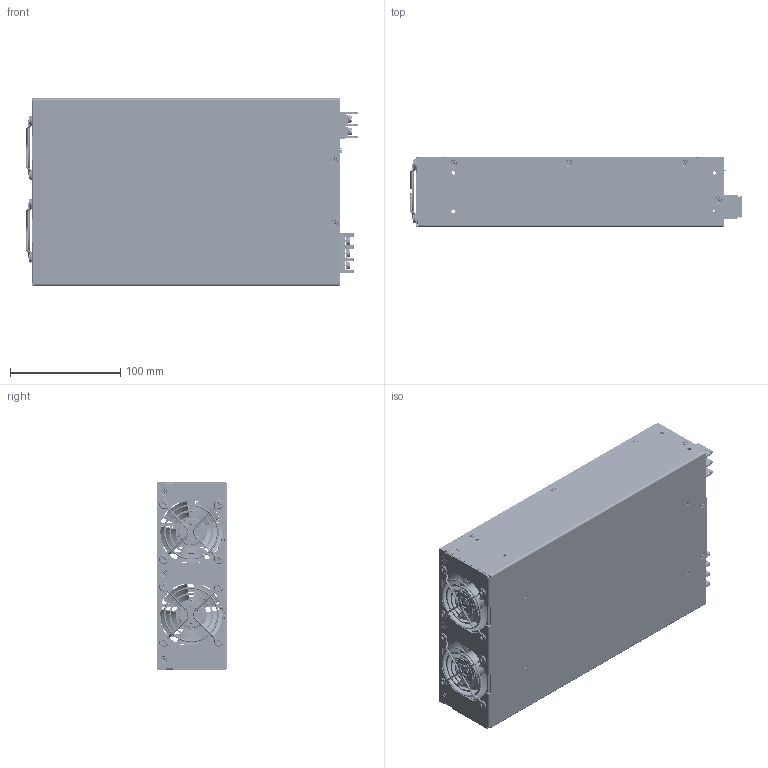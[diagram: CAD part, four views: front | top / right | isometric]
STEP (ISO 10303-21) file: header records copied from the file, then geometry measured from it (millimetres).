
FILE_DESCRIPTION (( 'STEP AP214' ), '1' );
FILE_NAME ('HDL3000-HV.STEP', '2020-03-26T18:29:04', ( '' ), ( '' ), 'SwSTEP 2.0', 'SolidWorks 2017', '' );
FILE_SCHEMA (( 'AUTOMOTIVE_DESIGN' ));
Length unit declared in the file: millimetre
Products named in the file (49): FAN_HOUSING; SCREW NI T2 5x10; countersunk flat head cross recess screw_bsi; PCB_HDL3000-HV; FAN FINGER GUARD S STEEL 50mm; CHASSIS_TOP_HDL3000-HV; CONN P=2.0 2x12P; VR2_; VR1_; 3P_CONN; 2P_CONN; FAN_BLADE; CHASSIS_BOTTOM_HDL3000-HV; HDL3000-HV; countersunk flat head cross recess screw_bsi_BS EN ISO 7046-1 - M3 x 6 - Z - 6N
Assembly tree (35 placements, depth 2):
  FAN_HOUSING
  SCREW NI T2 5x10
  countersunk flat head cross recess screw_bsi
  PCB_HDL3000-HV
  FAN FINGER GUARD S STEEL 50mm
Bounding box: 301.2 x 63.5 x 170 mm (x, y, z)
Volume: 321845.2 mm3; surface area: 446057.5 mm2
Topology: 59 solids, 114 shells, 5069 faces, 13887 edges, 9078 vertices
Faces by surface type: plane 2614, cylinder 1779, bspline 304, cone 258, torus 114
Entity records: 145842 total; most frequent: CARTESIAN_POINT 37423, ORIENTED_EDGE 21392, DIRECTION 20366, EDGE_CURVE 10768, VERTEX_POINT 7167, AXIS2_PLACEMENT_3D 6870, VECTOR 6626, LINE 6626
